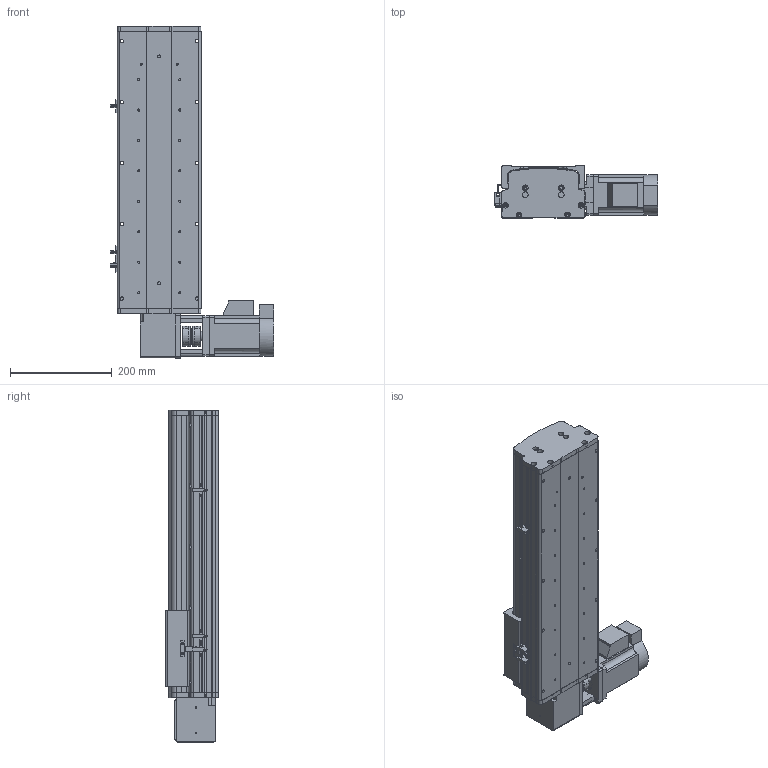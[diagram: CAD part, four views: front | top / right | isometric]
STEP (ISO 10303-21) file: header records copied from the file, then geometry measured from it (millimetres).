
FILE_DESCRIPTION (( 'STEP AP214' ), '1' );
FILE_NAME ('KSD165B-S300-MRT-CM.STEP', '2017-08-07T09:19:38', ( '微软用户' ), ( '微软中国' ), 'SwSTEP 2.0', 'SolidWorks 2014', '' );
FILE_SCHEMA (( 'AUTOMOTIVE_DESIGN' ));
Length unit declared in the file: millimetre
Products named in the file (16): 165宽安装板同步带带电机座750W; 165宽马达安装板同步带右; KSD165模组-同步带防尘盖1-300行程-最新版; KSD165模组同步带底板-300行程-最新; C39ㄜ1419WP; U倰嫖萇假蚾璃; U倰嫖萇EEㄜSX672; 覜茼え68遵圉猾敕; KSD165模组-同步带-防撞垫2; KSD165模组同步带-防撞垫1; KSD165耀郪-ヶ傷啣1-肮祭湍; KSD165模组-后端板1-同步带; 130宽马达安装板1-带电机座750W（1）; KSD165模组-同步带滑动座-最新版; KSD165B-S300-MRT-CM; 拸秶雄ん750W侜督萇儂
Assembly tree (19 placements, depth 2):
  KSD165B-S300-MRT-CM
    KSD165模组-同步带滑动座-最新版
    130宽马达安装板1-带电机座750W（1）
    KSD165模组-后端板1-同步带
    KSD165耀郪-ヶ傷啣1-肮祭湍
    KSD165模组同步带-防撞垫1
    KSD165模组-同步带-防撞垫2
    覜茼え68遵圉猾敕
    U倰嫖萇EEㄜSX672  x3
    U倰嫖萇假蚾璃  x3
    C39ㄜ1419WP
    KSD165模组同步带底板-300行程-最新
    KSD165模组-同步带防尘盖1-300行程-最新版
    165宽马达安装板同步带右
    165宽安装板同步带带电机座750W
    拸秶雄ん750W侜督萇儂
Bounding box: 321.2 x 104 x 654 mm (x, y, z)
Volume: 4727733.3 mm3; surface area: 1036661.4 mm2
Topology: 20 solids, 20 shells, 1406 faces, 3894 edges, 2517 vertices
Faces by surface type: cylinder 743, plane 569, cone 94
Entity records: 43863 total; most frequent: CARTESIAN_POINT 9209, DIRECTION 6856, ORIENTED_EDGE 6440, EDGE_CURVE 3220, AXIS2_PLACEMENT_3D 2588, VERTEX_POINT 2109, LINE 1680, VECTOR 1680
